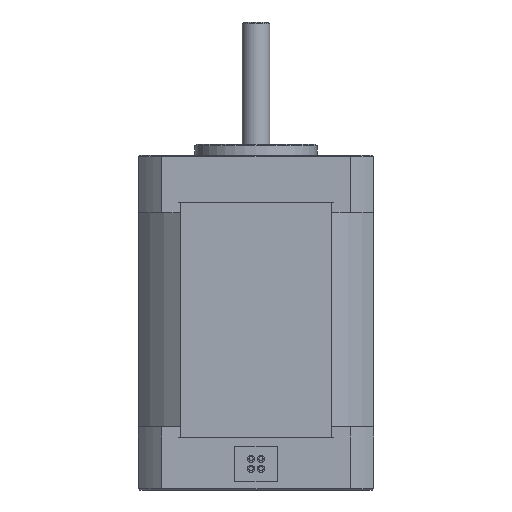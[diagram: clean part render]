
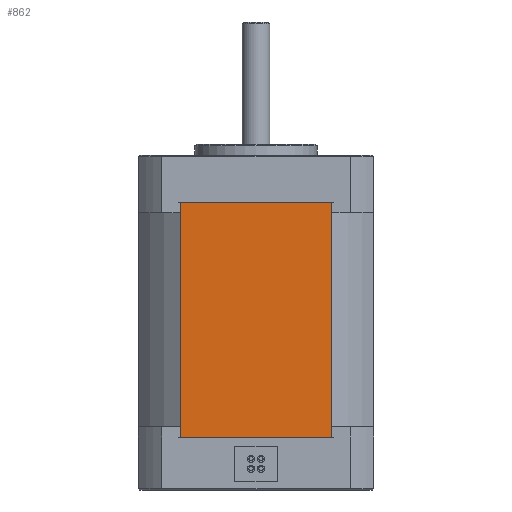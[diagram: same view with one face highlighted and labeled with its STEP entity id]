
A CAD part, front view. The second image highlights one B-rep face of the part: STEP entity #862.
In plain terms, the highlighted planar face has unit normal (0, -1, 0).
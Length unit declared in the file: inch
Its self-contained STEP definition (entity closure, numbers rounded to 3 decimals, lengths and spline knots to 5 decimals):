
#802 = EDGE_LOOP ( 'NONE', ( #8139, #8140, #8144, #8143 ) ) ;
#811 = VERTEX_POINT ( 'NONE', #4196 ) ;
#862 = ADVANCED_FACE ( 'NONE', ( #4371 ), #4362, .F. ) ;
#1695 = VERTEX_POINT ( 'NONE', #8907 ) ;
#1713 = EDGE_CURVE ( 'NONE', #1695, #10484, #8965, .T. ) ;
#4196 = CARTESIAN_POINT ( 'NONE',  ( -0.53473, -0.829, -0.33 ) ) ;
#4321 = AXIS2_PLACEMENT_3D ( 'NONE', #4406, #4405, #4404 ) ;
#4362 = PLANE ( 'NONE',  #4321 ) ;
#4371 = FACE_OUTER_BOUND ( 'NONE', #802, .T. ) ;
#4404 = DIRECTION ( 'NONE',  ( -1., 0., 0. ) ) ;
#4405 = DIRECTION ( 'NONE',  ( 0., 1., 0. ) ) ;
#4406 = CARTESIAN_POINT ( 'NONE',  ( 0.53473, -0.829, -1.99 ) ) ;
#7536 = DIRECTION ( 'NONE',  ( 0., 0., 1. ) ) ;
#7537 = VECTOR ( 'NONE', #7536, 39.37008 ) ;
#7542 = LINE ( 'NONE', #7543, #7537 ) ;
#7543 = CARTESIAN_POINT ( 'NONE',  ( 0.53473, -0.829, -1.99 ) ) ;
#8072 = EDGE_CURVE ( 'NONE', #1695, #10440, #7542, .T. ) ;
#8139 = ORIENTED_EDGE ( 'NONE', *, *, #10442, .T. ) ;
#8140 = ORIENTED_EDGE ( 'NONE', *, *, #8141, .F. ) ;
#8141 = EDGE_CURVE ( 'NONE', #10484, #811, #9514, .T. ) ;
#8143 = ORIENTED_EDGE ( 'NONE', *, *, #8072, .T. ) ;
#8144 = ORIENTED_EDGE ( 'NONE', *, *, #1713, .F. ) ;
#8907 = CARTESIAN_POINT ( 'NONE',  ( 0.53473, -0.829, -1.99 ) ) ;
#8957 = DIRECTION ( 'NONE',  ( -1., 0., 0. ) ) ;
#8958 = VECTOR ( 'NONE', #8957, 39.37008 ) ;
#8964 = CARTESIAN_POINT ( 'NONE',  ( 0.53473, -0.829, -1.99 ) ) ;
#8965 = LINE ( 'NONE', #8964, #8958 ) ;
#9447 = DIRECTION ( 'NONE',  ( 0., 0., 1. ) ) ;
#9448 = CARTESIAN_POINT ( 'NONE',  ( -0.53473, -0.829, -1.99 ) ) ;
#9509 = VECTOR ( 'NONE', #9447, 39.37008 ) ;
#9514 = LINE ( 'NONE', #9448, #9509 ) ;
#9612 = CARTESIAN_POINT ( 'NONE',  ( 0.53473, -0.829, -0.33 ) ) ;
#9613 = LINE ( 'NONE', #9612, #9648 ) ;
#9617 = CARTESIAN_POINT ( 'NONE',  ( 0.53473, -0.829, -0.33 ) ) ;
#9647 = DIRECTION ( 'NONE',  ( -1., 0., 0. ) ) ;
#9648 = VECTOR ( 'NONE', #9647, 39.37008 ) ;
#9820 = CARTESIAN_POINT ( 'NONE',  ( -0.53473, -0.829, -1.99 ) ) ;
#10440 = VERTEX_POINT ( 'NONE', #9617 ) ;
#10442 = EDGE_CURVE ( 'NONE', #10440, #811, #9613, .T. ) ;
#10484 = VERTEX_POINT ( 'NONE', #9820 ) ;
